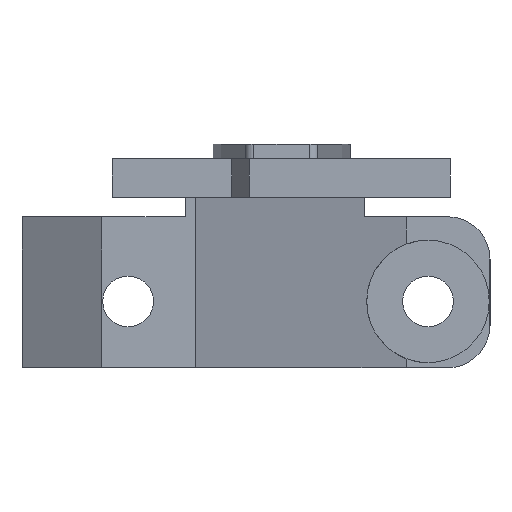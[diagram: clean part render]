
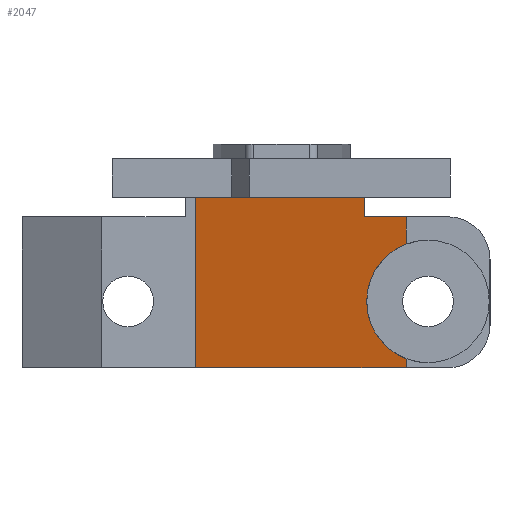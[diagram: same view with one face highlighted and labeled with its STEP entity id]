
A CAD part, left-side view. The second image highlights one B-rep face of the part: STEP entity #2047.
In plain terms, the highlighted planar face has unit normal (-0.962, 0.274, 0).
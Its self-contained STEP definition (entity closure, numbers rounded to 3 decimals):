
#261 = DIRECTION ( 'NONE',  ( 0., 0., 1. ) ) ;
#262 = VECTOR ( 'NONE', #261, 1000. ) ;
#263 = CARTESIAN_POINT ( 'NONE',  ( 190.65, 119.738, 7.05 ) ) ;
#315 = LINE ( 'NONE', #263, #262 ) ;
#438 = DIRECTION ( 'NONE',  ( 0.274, 0.962, 0. ) ) ;
#439 = VECTOR ( 'NONE', #438, 1000. ) ;
#442 = CARTESIAN_POINT ( 'NONE',  ( 190.65, 119.738, 24.915 ) ) ;
#443 = LINE ( 'NONE', #442, #439 ) ;
#482 = CARTESIAN_POINT ( 'NONE',  ( 192.042, 124.63, 24.915 ) ) ;
#500 = CARTESIAN_POINT ( 'NONE',  ( 190.65, 119.738, 24.915 ) ) ;
#517 = CARTESIAN_POINT ( 'NONE',  ( 190.65, 119.738, 7.05 ) ) ;
#603 = DIRECTION ( 'NONE',  ( 0., 0., 1. ) ) ;
#604 = VECTOR ( 'NONE', #603, 1000. ) ;
#605 = CARTESIAN_POINT ( 'NONE',  ( 192.042, 124.63, 7.05 ) ) ;
#606 = LINE ( 'NONE', #605, #604 ) ;
#607 = CARTESIAN_POINT ( 'NONE',  ( 192.042, 124.63, 27.2 ) ) ;
#630 = DIRECTION ( 'NONE',  ( 0.274, 0.962, 0. ) ) ;
#632 = VECTOR ( 'NONE', #630, 1000. ) ;
#636 = CARTESIAN_POINT ( 'NONE',  ( 192.042, 124.63, 27.2 ) ) ;
#637 = LINE ( 'NONE', #636, #632 ) ;
#640 = AXIS2_PLACEMENT_3D ( 'NONE', #645, #678, #677 ) ;
#645 = CARTESIAN_POINT ( 'NONE',  ( 190.65, 119.738, 7.05 ) ) ;
#659 = PLANE ( 'NONE',  #640 ) ;
#663 = FACE_OUTER_BOUND ( 'NONE', #1955, .T. ) ;
#677 = DIRECTION ( 'NONE',  ( -0.274, -0.962, 0. ) ) ;
#678 = DIRECTION ( 'NONE',  ( -0.962, 0.274, 0. ) ) ;
#840 = LINE ( 'NONE', #964, #850 ) ;
#850 = VECTOR ( 'NONE', #940, 1000. ) ;
#883 = DIRECTION ( 'NONE',  ( -0.274, -0.962, 0. ) ) ;
#884 = VECTOR ( 'NONE', #883, 1000. ) ;
#885 = CARTESIAN_POINT ( 'NONE',  ( 190.65, 119.738, 7.05 ) ) ;
#886 = LINE ( 'NONE', #885, #884 ) ;
#940 = DIRECTION ( 'NONE',  ( 0., 0., -1. ) ) ;
#954 = CARTESIAN_POINT ( 'NONE',  ( 197.73, 144.616, 7.05 ) ) ;
#964 = CARTESIAN_POINT ( 'NONE',  ( 197.73, 144.616, 7.05 ) ) ;
#1114 = VERTEX_POINT ( 'NONE', #2416 ) ;
#1158 = VERTEX_POINT ( 'NONE', #2538 ) ;
#1166 = EDGE_CURVE ( 'NONE', #1114, #1158, #2536, .T. ) ;
#1472 = VERTEX_POINT ( 'NONE', #2978 ) ;
#1473 = EDGE_CURVE ( 'NONE', #1158, #1880, #3007, .T. ) ;
#1530 = VERTEX_POINT ( 'NONE', #954 ) ;
#1532 = EDGE_CURVE ( 'NONE', #1472, #1530, #840, .T. ) ;
#1590 = EDGE_CURVE ( 'NONE', #1530, #1899, #886, .T. ) ;
#1796 = EDGE_CURVE ( 'NONE', #1899, #1114, #315, .T. ) ;
#1880 = VERTEX_POINT ( 'NONE', #500 ) ;
#1891 = EDGE_CURVE ( 'NONE', #1880, #1892, #443, .T. ) ;
#1892 = VERTEX_POINT ( 'NONE', #482 ) ;
#1899 = VERTEX_POINT ( 'NONE', #517 ) ;
#1948 = EDGE_CURVE ( 'NONE', #1892, #1953, #606, .T. ) ;
#1950 = ORIENTED_EDGE ( 'NONE', *, *, #1891, .T. ) ;
#1951 = ORIENTED_EDGE ( 'NONE', *, *, #1473, .T. ) ;
#1952 = ORIENTED_EDGE ( 'NONE', *, *, #1971, .T. ) ;
#1953 = VERTEX_POINT ( 'NONE', #607 ) ;
#1955 = EDGE_LOOP ( 'NONE', ( #2048, #1951, #1950, #2046, #1952, #1963, #1970, #1965 ) ) ;
#1963 = ORIENTED_EDGE ( 'NONE', *, *, #1532, .T. ) ;
#1965 = ORIENTED_EDGE ( 'NONE', *, *, #1796, .T. ) ;
#1970 = ORIENTED_EDGE ( 'NONE', *, *, #1590, .T. ) ;
#1971 = EDGE_CURVE ( 'NONE', #1953, #1472, #637, .T. ) ;
#2046 = ORIENTED_EDGE ( 'NONE', *, *, #1948, .T. ) ;
#2047 = ADVANCED_FACE ( 'NONE', ( #663 ), #659, .T. ) ;
#2048 = ORIENTED_EDGE ( 'NONE', *, *, #1166, .T. ) ;
#2416 = CARTESIAN_POINT ( 'NONE',  ( 190.65, 119.738, 8.131 ) ) ;
#2536 =( BOUNDED_CURVE ( )  B_SPLINE_CURVE ( 3, ( #2624, #2623, #2604, #2603 ),
 .UNSPECIFIED., .F., .F. ) 
 B_SPLINE_CURVE_WITH_KNOTS ( ( 4, 4 ),
 ( 5.079, 7.487 ),
 .UNSPECIFIED. ) 
 CURVE ( )  GEOMETRIC_REPRESENTATION_ITEM ( )  RATIONAL_B_SPLINE_CURVE ( ( 1., 0.572, 0.572, 1. ) ) 
 REPRESENTATION_ITEM ( '' )  );
#2538 = CARTESIAN_POINT ( 'NONE',  ( 190.65, 119.738, 21.669 ) ) ;
#2603 = CARTESIAN_POINT ( 'NONE',  ( 190.65, 119.738, 21.669 ) ) ;
#2604 = CARTESIAN_POINT ( 'NONE',  ( 192.745, 127.1, 18.843 ) ) ;
#2623 = CARTESIAN_POINT ( 'NONE',  ( 192.745, 127.1, 10.957 ) ) ;
#2624 = CARTESIAN_POINT ( 'NONE',  ( 190.65, 119.738, 8.131 ) ) ;
#2978 = CARTESIAN_POINT ( 'NONE',  ( 197.73, 144.616, 27.2 ) ) ;
#3004 = DIRECTION ( 'NONE',  ( 0., 0., 1. ) ) ;
#3005 = VECTOR ( 'NONE', #3004, 1000. ) ;
#3006 = CARTESIAN_POINT ( 'NONE',  ( 190.65, 119.738, 7.05 ) ) ;
#3007 = LINE ( 'NONE', #3006, #3005 ) ;
